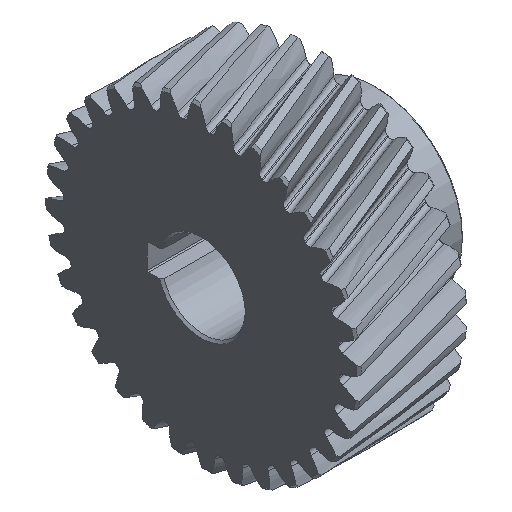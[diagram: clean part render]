
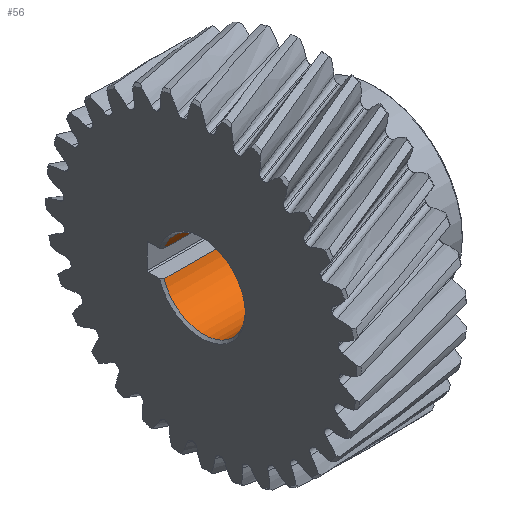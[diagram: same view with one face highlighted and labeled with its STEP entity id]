
A CAD part, isometric view. The second image highlights one B-rep face of the part: STEP entity #56.
In plain terms, the highlighted cylindrical face has radius 9.5 mm (diameter 19 mm), a partial arc.
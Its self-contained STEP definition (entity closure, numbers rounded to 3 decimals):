
#56=ADVANCED_FACE('',(#2502,#2504),#2506,.F.);
#2502=FACE_BOUND('',#2503,.T.);
#2503=EDGE_LOOP('',(#10060,#10061,#10062,#10063));
#2504=FACE_BOUND('',#2505,.T.);
#2505=EDGE_LOOP('',(#10064));
#2506=CYLINDRICAL_SURFACE('',#2507,9.5);
#2507=AXIS2_PLACEMENT_3D('',#2508,#2509,#2510);
#2508=CARTESIAN_POINT('',(0.,0.,0.));
#2509=DIRECTION('',(1.,0.,0.));
#2510=DIRECTION('',(0.,-0.,1.));
#10060=ORIENTED_EDGE('',*,*,#11658,.T.);
#10061=ORIENTED_EDGE('',*,*,#11659,.F.);
#10062=ORIENTED_EDGE('',*,*,#11660,.T.);
#10063=ORIENTED_EDGE('',*,*,#11661,.F.);
#10064=ORIENTED_EDGE('',*,*,#11662,.T.);
#11658=EDGE_CURVE('',#12457,#12458,#12459,.T.);
#11659=EDGE_CURVE('',#12460,#12458,#12461,.F.);
#11660=EDGE_CURVE('',#12460,#12462,#12463,.F.);
#11661=EDGE_CURVE('',#12457,#12462,#12464,.T.);
#11662=EDGE_CURVE('',#12465,#12465,#12466,.T.);
#12457=VERTEX_POINT('',#13791);
#12458=VERTEX_POINT('',#13792);
#12459=LINE('',#13793,#13794);
#12460=VERTEX_POINT('',#13796);
#12461=CIRCLE('',#13797,9.5);
#12462=VERTEX_POINT('',#13801);
#12463=LINE('',#13802,#13803);
#12464=CIRCLE('',#13805,9.5);
#12465=VERTEX_POINT('',#13809);
#12466=B_SPLINE_CURVE_WITH_KNOTS('',3,
(#13810,#13811,#13812,#13813,#13814,#13815,#13816,#13817,#13818,#13819,#13820,#13821,
#13822,#13823,#13824,#13825,#13826,#13827,#13828,#13829,#13830,#13831,#13832,#13833,
#13834,#13835,#13836,#13837,#13838,#13839,#13840,#13841,#13842,#13843,#13844,#13845,
#13846,#13847,#13848,#13849,#13850,#13851,#13852,#13853,#13854,#13855,#13856,#13857,
#13858,#13859,#13860,#13861,#13862,#13863,#13864,#13865,#13866,#13867,#13868,#13869,
#13870,#13871,#13872,#13873,#13874,#13875),
.UNSPECIFIED.,.T.,.F.,
(4,1,1,1,1,1,1,1,1,1,1,1,1,1,1,1,1,1,1,1,1,1,1,1,1,1,1,1,1,1,1,1,1,1,1,1,1,1,1,1,
1,1,1,1,1,1,1,1,1,1,1,1,1,1,1,1,1,1,1,1,1,1,1,4),
(0.,0.012,0.024,0.036,0.05,0.065,
0.08,0.094,0.109,0.124,0.141,
0.158,0.176,0.194,0.212,0.228,
0.242,0.256,0.273,0.29,0.308,
0.323,0.339,0.355,0.372,0.389,
0.406,0.421,0.436,0.451,0.465,
0.478,0.49,0.506,0.523,0.538,
0.552,0.569,0.587,0.602,0.616,
0.632,0.649,0.668,0.687,0.705,
0.72,0.734,0.747,0.76,0.774,
0.789,0.805,0.824,0.842,0.859,
0.876,0.892,0.912,0.931,0.949,
0.964,0.981,1.),
.UNSPECIFIED.);
#13791=CARTESIAN_POINT('',(0.5,9.014,3.));
#13792=CARTESIAN_POINT('',(39.5,9.014,3.));
#13793=CARTESIAN_POINT('',(0.5,9.014,3.));
#13794=VECTOR('',#13795,1.);
#13795=DIRECTION('',(1.,0.,0.));
#13796=CARTESIAN_POINT('',(39.5,9.014,-3.));
#13797=AXIS2_PLACEMENT_3D('',#13798,#13799,#13800);
#13798=CARTESIAN_POINT('',(39.5,0.,0.));
#13799=DIRECTION('',(1.,0.,0.));
#13800=DIRECTION('',(0.,0.949,0.316));
#13801=CARTESIAN_POINT('',(0.5,9.014,-3.));
#13802=CARTESIAN_POINT('',(0.5,9.014,-3.));
#13803=VECTOR('',#13804,1.);
#13804=DIRECTION('',(1.,0.,0.));
#13805=AXIS2_PLACEMENT_3D('',#13806,#13807,#13808);
#13806=CARTESIAN_POINT('',(0.5,0.,0.));
#13807=DIRECTION('',(1.,0.,0.));
#13808=DIRECTION('',(0.,0.949,0.316));
#13809=CARTESIAN_POINT('',(36.229,-4.75,-8.227));
#13810=CARTESIAN_POINT('',(36.229,-4.75,-8.227));
#13811=CARTESIAN_POINT('',(36.229,-4.798,-8.199));
#13812=CARTESIAN_POINT('',(36.225,-4.895,-8.142));
#13813=CARTESIAN_POINT('',(36.205,-5.04,-8.053));
#13814=CARTESIAN_POINT('',(36.171,-5.189,-7.958));
#13815=CARTESIAN_POINT('',(36.12,-5.342,-7.856));
#13816=CARTESIAN_POINT('',(36.048,-5.499,-7.748));
#13817=CARTESIAN_POINT('',(35.957,-5.649,-7.638));
#13818=CARTESIAN_POINT('',(35.85,-5.79,-7.532));
#13819=CARTESIAN_POINT('',(35.726,-5.923,-7.428));
#13820=CARTESIAN_POINT('',(35.58,-6.05,-7.325));
#13821=CARTESIAN_POINT('',(35.411,-6.17,-7.224));
#13822=CARTESIAN_POINT('',(35.218,-6.278,-7.13));
#13823=CARTESIAN_POINT('',(35.005,-6.372,-7.046));
#13824=CARTESIAN_POINT('',(34.775,-6.448,-6.977));
#13825=CARTESIAN_POINT('',(34.541,-6.501,-6.927));
#13826=CARTESIAN_POINT('',(34.32,-6.533,-6.897));
#13827=CARTESIAN_POINT('',(34.113,-6.548,-6.883));
#13828=CARTESIAN_POINT('',(33.901,-6.549,-6.882));
#13829=CARTESIAN_POINT('',(33.675,-6.533,-6.897));
#13830=CARTESIAN_POINT('',(33.435,-6.497,-6.931));
#13831=CARTESIAN_POINT('',(33.211,-6.443,-6.982));
#13832=CARTESIAN_POINT('',(33.004,-6.374,-7.044));
#13833=CARTESIAN_POINT('',(32.814,-6.293,-7.117));
#13834=CARTESIAN_POINT('',(32.627,-6.193,-7.204));
#13835=CARTESIAN_POINT('',(32.45,-6.074,-7.305));
#13836=CARTESIAN_POINT('',(32.288,-5.938,-7.416));
#13837=CARTESIAN_POINT('',(32.15,-5.792,-7.531));
#13838=CARTESIAN_POINT('',(32.037,-5.642,-7.644));
#13839=CARTESIAN_POINT('',(31.945,-5.486,-7.757));
#13840=CARTESIAN_POINT('',(31.874,-5.327,-7.867));
#13841=CARTESIAN_POINT('',(31.823,-5.169,-7.971));
#13842=CARTESIAN_POINT('',(31.791,-5.018,-8.067));
#13843=CARTESIAN_POINT('',(31.771,-4.856,-8.166));
#13844=CARTESIAN_POINT('',(31.769,-4.672,-8.273));
#13845=CARTESIAN_POINT('',(31.789,-4.477,-8.38));
#13846=CARTESIAN_POINT('',(31.83,-4.29,-8.477));
#13847=CARTESIAN_POINT('',(31.89,-4.105,-8.568));
#13848=CARTESIAN_POINT('',(31.975,-3.911,-8.658));
#13849=CARTESIAN_POINT('',(32.085,-3.72,-8.742));
#13850=CARTESIAN_POINT('',(32.209,-3.549,-8.813));
#13851=CARTESIAN_POINT('',(32.343,-3.396,-8.873));
#13852=CARTESIAN_POINT('',(32.497,-3.247,-8.928));
#13853=CARTESIAN_POINT('',(32.683,-3.101,-8.98));
#13854=CARTESIAN_POINT('',(32.898,-2.967,-9.025));
#13855=CARTESIAN_POINT('',(33.129,-2.856,-9.061));
#13856=CARTESIAN_POINT('',(33.359,-2.776,-9.086));
#13857=CARTESIAN_POINT('',(33.576,-2.724,-9.101));
#13858=CARTESIAN_POINT('',(33.775,-2.696,-9.11));
#13859=CARTESIAN_POINT('',(33.963,-2.685,-9.113));
#13860=CARTESIAN_POINT('',(34.149,-2.689,-9.111));
#13861=CARTESIAN_POINT('',(34.341,-2.71,-9.105));
#13862=CARTESIAN_POINT('',(34.549,-2.751,-9.093));
#13863=CARTESIAN_POINT('',(34.77,-2.817,-9.073));
#13864=CARTESIAN_POINT('',(34.999,-2.914,-9.042));
#13865=CARTESIAN_POINT('',(35.217,-3.035,-9.003));
#13866=CARTESIAN_POINT('',(35.413,-3.174,-8.955));
#13867=CARTESIAN_POINT('',(35.587,-3.324,-8.9));
#13868=CARTESIAN_POINT('',(35.751,-3.498,-8.833));
#13869=CARTESIAN_POINT('',(35.9,-3.695,-8.753));
#13870=CARTESIAN_POINT('',(36.025,-3.91,-8.659));
#13871=CARTESIAN_POINT('',(36.115,-4.115,-8.563));
#13872=CARTESIAN_POINT('',(36.178,-4.318,-8.463));
#13873=CARTESIAN_POINT('',(36.219,-4.527,-8.353));
#13874=CARTESIAN_POINT('',(36.229,-4.674,-8.271));
#13875=CARTESIAN_POINT('',(36.229,-4.75,-8.227));
